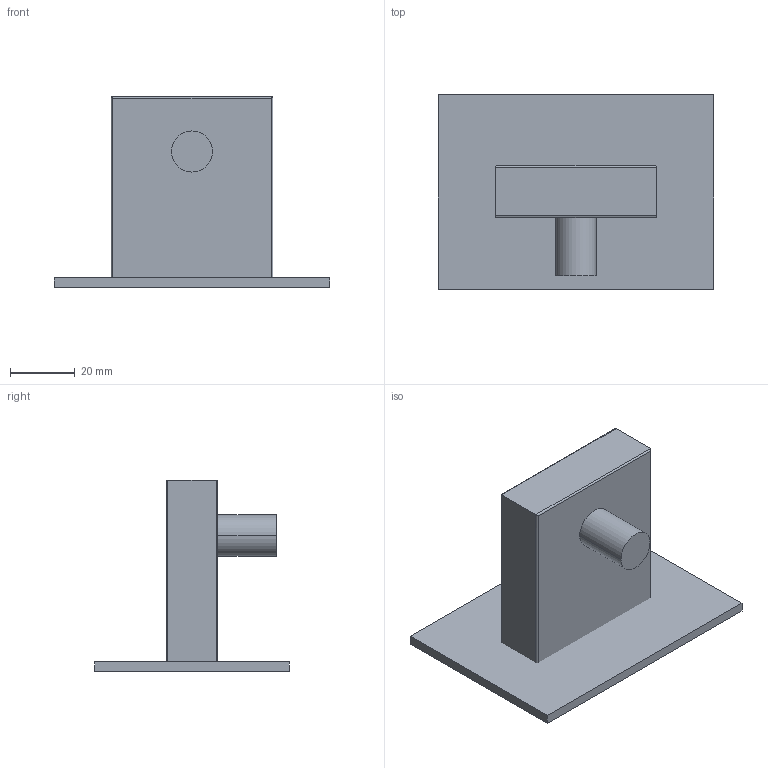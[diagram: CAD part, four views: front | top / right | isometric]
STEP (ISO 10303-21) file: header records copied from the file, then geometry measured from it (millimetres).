
FILE_DESCRIPTION(('FreeCAD Model'),'2;1');
FILE_NAME('Open CASCADE Shape Model','2024-08-12T22:18:03',('Author'),( ''),'Open CASCADE STEP processor 7.6','FreeCAD','Unknown');
FILE_SCHEMA(('AUTOMOTIVE_DESIGN { 1 0 10303 214 1 1 1 1 }'));
Length unit declared in the file: millimetre
Products named in the file (6): TopLevelAssembly; Wyciąganie001; Wyciągnięcie po ścieżce; Wyciąganie002; Wyciąganie003; Wyciąganie004
Assembly tree (5 placements, depth 2):
  TopLevelAssembly
    Wyciąganie001
    Wyciągnięcie po ścieżce
    Wyciąganie002
    Wyciąganie003
    Wyciąganie004
Bounding box: 85 x 60 x 59.01 mm (x, y, z)
Volume: 65142.3 mm3; surface area: 27042.6 mm2
Topology: 5 solids, 5 shells, 34 faces, 64 edges, 40 vertices
Faces by surface type: plane 24, cylinder 10
Entity records: 984 total; most frequent: DIRECTION 160, CARTESIAN_POINT 144, ORIENTED_EDGE 128, EDGE_CURVE 64, AXIS2_PLACEMENT_3D 56, LINE 48, VECTOR 48, VERTEX_POINT 40
